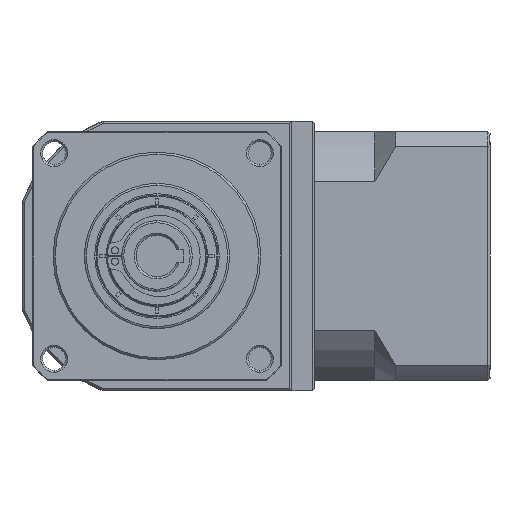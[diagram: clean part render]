
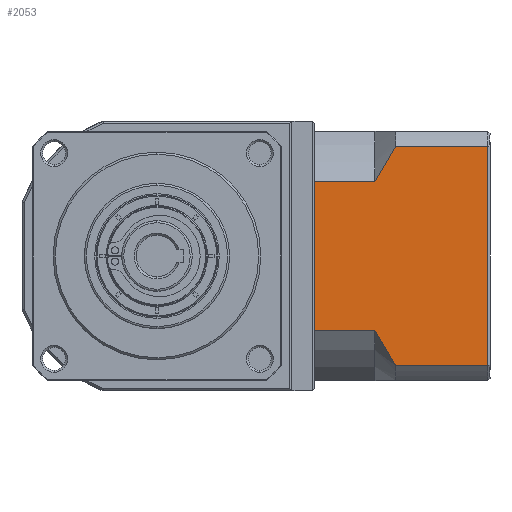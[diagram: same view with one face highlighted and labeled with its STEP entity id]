
A CAD part, left-side view. The second image highlights one B-rep face of the part: STEP entity #2053.
In plain terms, the highlighted planar face has unit normal (-1, 0, 0).
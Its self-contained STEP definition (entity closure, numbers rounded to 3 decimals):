
#492 = CARTESIAN_POINT ( 'NONE',  ( -17.243, -85.473, -141.169 ) ) ;
#1303 = CARTESIAN_POINT ( 'NONE',  ( -17.243, -111.923, -151.685 ) ) ;
#1535 = VERTEX_POINT ( 'NONE', #40811 ) ;
#2053 = ADVANCED_FACE ( 'NONE', ( #40142 ), #60062, .F. ) ;
#2488 = ORIENTED_EDGE ( 'NONE', *, *, #12211, .F. ) ;
#6995 = VECTOR ( 'NONE', #145169, 1000. ) ;
#12211 = EDGE_CURVE ( 'NONE', #85089, #129740, #108628, .T. ) ;
#12215 = VECTOR ( 'NONE', #14308, 1000. ) ;
#14308 = DIRECTION ( 'NONE',  ( 0., -1., 0. ) ) ;
#17482 = DIRECTION ( 'NONE',  ( 0., 1., 0. ) ) ;
#17565 = VECTOR ( 'NONE', #114321, 1000. ) ;
#25203 = CARTESIAN_POINT ( 'NONE',  ( -17.243, -112.423, -151.685 ) ) ;
#26731 = CARTESIAN_POINT ( 'NONE',  ( -17.243, -84.723, -95.228 ) ) ;
#28259 = LINE ( 'NONE', #66364, #119265 ) ;
#28354 = CARTESIAN_POINT ( 'NONE',  ( -17.243, -84.723, -103.657 ) ) ;
#31330 = CARTESIAN_POINT ( 'NONE',  ( -17.243, -84.723, -103.657 ) ) ;
#32421 = CARTESIAN_POINT ( 'NONE',  ( -17.243, -88.823, -96.588 ) ) ;
#34902 = ORIENTED_EDGE ( 'NONE', *, *, #91235, .F. ) ;
#36264 = CARTESIAN_POINT ( 'NONE',  ( -17.243, -87.948, -145.4 ) ) ;
#37168 = DIRECTION ( 'NONE',  ( 0., 1., 0. ) ) ;
#38633 = ORIENTED_EDGE ( 'NONE', *, *, #122566, .T. ) ;
#39478 = EDGE_CURVE ( 'NONE', #1535, #129740, #147587, .T. ) ;
#40142 = FACE_OUTER_BOUND ( 'NONE', #110475, .T. ) ;
#40811 = CARTESIAN_POINT ( 'NONE',  ( -17.243, -89.723, -95.228 ) ) ;
#42351 = VERTEX_POINT ( 'NONE', #96930 ) ;
#43879 = B_SPLINE_CURVE_WITH_KNOTS ( 'NONE', 3,
 ( #142573, #492, #107391, #36264, #119330, #48217 ),
 .UNSPECIFIED., .F., .F.,
 ( 4, 2, 4 ),
 ( 0.1, 0.104, 0.109 ),
 .UNSPECIFIED. ) ;
#45095 = ORIENTED_EDGE ( 'NONE', *, *, #39478, .T. ) ;
#48217 = CARTESIAN_POINT ( 'NONE',  ( -17.243, -89.723, -148.143 ) ) ;
#48448 = EDGE_CURVE ( 'NONE', #1535, #107429, #103237, .T. ) ;
#52135 = CARTESIAN_POINT ( 'NONE',  ( -17.243, -111.923, -148.143 ) ) ;
#60062 = PLANE ( 'NONE',  #104580 ) ;
#66364 = CARTESIAN_POINT ( 'NONE',  ( -17.243, -84.723, -139.713 ) ) ;
#68175 = CARTESIAN_POINT ( 'NONE',  ( -17.243, -86.274, -100.774 ) ) ;
#70181 = VECTOR ( 'NONE', #17482, 1000. ) ;
#74147 = CARTESIAN_POINT ( 'NONE',  ( -17.243, -70.223, -151.685 ) ) ;
#75621 = CARTESIAN_POINT ( 'NONE',  ( -17.243, -84.723, -148.143 ) ) ;
#76925 = ORIENTED_EDGE ( 'NONE', *, *, #136442, .F. ) ;
#78752 = ORIENTED_EDGE ( 'NONE', *, *, #48448, .F. ) ;
#78913 = ORIENTED_EDGE ( 'NONE', *, *, #150690, .T. ) ;
#80174 = CARTESIAN_POINT ( 'NONE',  ( -17.243, -84.723, -103.657 ) ) ;
#85089 = VERTEX_POINT ( 'NONE', #117046 ) ;
#91235 = EDGE_CURVE ( 'NONE', #133174, #42351, #137050, .T. ) ;
#96930 = CARTESIAN_POINT ( 'NONE',  ( -17.243, -89.723, -148.143 ) ) ;
#99674 = CARTESIAN_POINT ( 'NONE',  ( -17.243, -111.923, -95.228 ) ) ;
#103237 = LINE ( 'NONE', #26731, #12215 ) ;
#104580 = AXIS2_PLACEMENT_3D ( 'NONE', #25203, #108350, #37168 ) ;
#107391 = CARTESIAN_POINT ( 'NONE',  ( -17.243, -86.274, -142.595 ) ) ;
#107429 = VERTEX_POINT ( 'NONE', #99674 ) ;
#108350 = DIRECTION ( 'NONE',  ( 1., 0., 0. ) ) ;
#108628 = LINE ( 'NONE', #31330, #17565 ) ;
#109833 = LINE ( 'NONE', #1303, #141303 ) ;
#110475 = EDGE_LOOP ( 'NONE', ( #34902, #38633, #78752, #45095, #2488, #78913, #76925, #152455 ) ) ;
#113609 = CARTESIAN_POINT ( 'NONE',  ( -17.243, -84.723, -139.713 ) ) ;
#114321 = DIRECTION ( 'NONE',  ( 0., -1., 0. ) ) ;
#115442 = CARTESIAN_POINT ( 'NONE',  ( -17.243, -89.723, -95.228 ) ) ;
#117046 = CARTESIAN_POINT ( 'NONE',  ( -17.243, -70.223, -103.657 ) ) ;
#119265 = VECTOR ( 'NONE', #148828, 1000. ) ;
#119330 = CARTESIAN_POINT ( 'NONE',  ( -17.243, -88.822, -146.78 ) ) ;
#120075 = EDGE_CURVE ( 'NONE', #146354, #42351, #43879, .T. ) ;
#120529 = VERTEX_POINT ( 'NONE', #133832 ) ;
#122566 = EDGE_CURVE ( 'NONE', #133174, #107429, #109833, .T. ) ;
#129547 = LINE ( 'NONE', #74147, #6995 ) ;
#129740 = VERTEX_POINT ( 'NONE', #28354 ) ;
#133174 = VERTEX_POINT ( 'NONE', #52135 ) ;
#133832 = CARTESIAN_POINT ( 'NONE',  ( -17.243, -70.223, -139.713 ) ) ;
#136442 = EDGE_CURVE ( 'NONE', #146354, #120529, #28259, .T. ) ;
#137050 = LINE ( 'NONE', #75621, #70181 ) ;
#139291 = CARTESIAN_POINT ( 'NONE',  ( -17.243, -87.95, -97.966 ) ) ;
#141303 = VECTOR ( 'NONE', #141909, 1000. ) ;
#141909 = DIRECTION ( 'NONE',  ( 0., 0., 1. ) ) ;
#142573 = CARTESIAN_POINT ( 'NONE',  ( -17.243, -84.723, -139.713 ) ) ;
#145169 = DIRECTION ( 'NONE',  ( 0., 0., -1. ) ) ;
#146354 = VERTEX_POINT ( 'NONE', #113609 ) ;
#147587 = B_SPLINE_CURVE_WITH_KNOTS ( 'NONE', 3,
 ( #115442, #32421, #139291, #68175, #151176, #80174 ),
 .UNSPECIFIED., .F., .F.,
 ( 4, 2, 4 ),
 ( 0.052, 0.057, 0.062 ),
 .UNSPECIFIED. ) ;
#148828 = DIRECTION ( 'NONE',  ( 0., 1., 0. ) ) ;
#150690 = EDGE_CURVE ( 'NONE', #85089, #120529, #129547, .T. ) ;
#151176 = CARTESIAN_POINT ( 'NONE',  ( -17.243, -85.471, -102.205 ) ) ;
#152455 = ORIENTED_EDGE ( 'NONE', *, *, #120075, .T. ) ;
